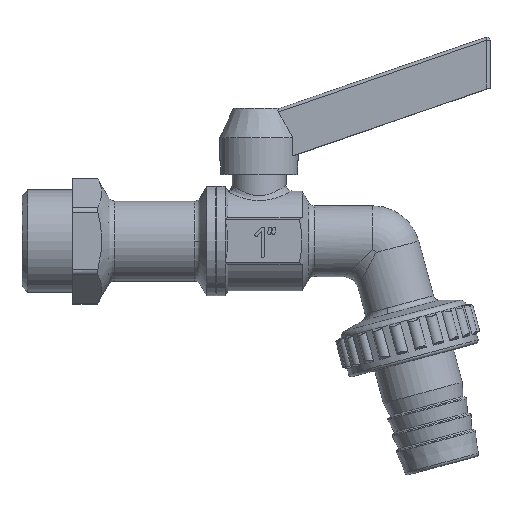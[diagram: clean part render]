
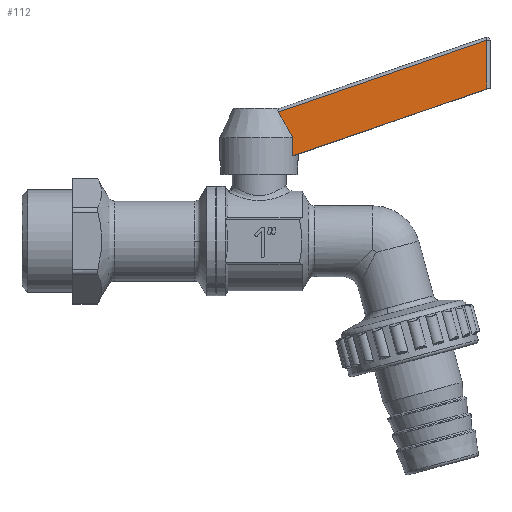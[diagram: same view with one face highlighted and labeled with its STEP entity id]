
A CAD part, top view. The second image highlights one B-rep face of the part: STEP entity #112.
In plain terms, the highlighted planar face has unit normal (0, 0, 1).
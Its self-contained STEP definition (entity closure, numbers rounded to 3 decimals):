
#112=ADVANCED_FACE('',(#1197),#1199,.T.);
#1197=FACE_BOUND('',#1198,.T.);
#1198=EDGE_LOOP('',(#5381,#5382,#5383,#5384,#5385));
#1199=PLANE('',#1200);
#1200=AXIS2_PLACEMENT_3D('',#1201,#1202,#1203);
#1201=CARTESIAN_POINT('',(0.,33.634,6.5));
#1202=DIRECTION('',(0.,0.,1.));
#1203=DIRECTION('',(1.,0.,0.));
#5381=ORIENTED_EDGE('',*,*,#8274,.T.);
#5382=ORIENTED_EDGE('',*,*,#8275,.T.);
#5383=ORIENTED_EDGE('',*,*,#8232,.F.);
#5384=ORIENTED_EDGE('',*,*,#8209,.F.);
#5385=ORIENTED_EDGE('',*,*,#8246,.T.);
#8209=EDGE_CURVE('',#9653,#9655,#9656,.T.);
#8232=EDGE_CURVE('',#9655,#9693,#9694,.F.);
#8246=EDGE_CURVE('',#9653,#9717,#9719,.T.);
#8274=EDGE_CURVE('',#9717,#9770,#9771,.T.);
#8275=EDGE_CURVE('',#9770,#9693,#9772,.T.);
#9653=VERTEX_POINT('',#12222);
#9655=VERTEX_POINT('',#12227);
#9656=LINE('',#12228,#12229);
#9693=VERTEX_POINT('',#12472);
#9694=B_SPLINE_CURVE_WITH_KNOTS('',3,
(#12473,#12474,#12475,#12476,#12477,#12478,#12479,#12480,#12481,#12482,#12483,#12484,
#12485,#12486,#12487,#12488,#12489,#12490,#12491,#12492,#12493,#12494,#12495,#12496,
#12497,#12498,#12499,#12500,#12501),
.UNSPECIFIED.,.F.,.F.,
(4,1,1,1,1,1,1,1,1,1,1,1,1,1,1,1,1,1,1,1,1,1,1,1,1,1,4),
(0.,0.019,0.038,0.058,0.071,0.078,
0.097,0.129,0.181,0.23,0.262,
0.359,0.435,0.445,0.512,0.571,
0.628,0.68,0.683,0.726,0.769,
0.814,0.86,0.904,0.906,0.953,
1.),
.UNSPECIFIED.);
#9717=VERTEX_POINT('',#12589);
#9719=LINE('',#12594,#12595);
#9770=VERTEX_POINT('',#12718);
#9771=LINE('',#12719,#12720);
#9772=LINE('',#12722,#12723);
#12222=CARTESIAN_POINT('',(10.969,27.664,6.5));
#12227=CARTESIAN_POINT('',(10.969,33.634,6.5));
#12228=CARTESIAN_POINT('',(10.969,27.664,6.5));
#12229=VECTOR('',#12230,1.);
#12230=DIRECTION('',(0.,1.,0.));
#12472=CARTESIAN_POINT('',(6.289,41.917,6.5));
#12473=CARTESIAN_POINT('',(6.289,41.917,6.5));
#12474=CARTESIAN_POINT('',(6.322,41.866,6.5));
#12475=CARTESIAN_POINT('',(6.388,41.763,6.5));
#12476=CARTESIAN_POINT('',(6.486,41.609,6.5));
#12477=CARTESIAN_POINT('',(6.573,41.47,6.5));
#12478=CARTESIAN_POINT('',(6.639,41.365,6.5));
#12479=CARTESIAN_POINT('',(6.706,41.259,6.5));
#12480=CARTESIAN_POINT('',(6.804,41.1,6.5));
#12481=CARTESIAN_POINT('',(6.977,40.82,6.5));
#12482=CARTESIAN_POINT('',(7.195,40.462,6.5));
#12483=CARTESIAN_POINT('',(7.41,40.101,6.5));
#12484=CARTESIAN_POINT('',(7.697,39.616,6.5));
#12485=CARTESIAN_POINT('',(8.024,39.054,6.5));
#12486=CARTESIAN_POINT('',(8.312,38.548,6.5));
#12487=CARTESIAN_POINT('',(8.551,38.126,6.5));
#12488=CARTESIAN_POINT('',(8.761,37.75,6.5));
#12489=CARTESIAN_POINT('',(9.041,37.244,6.5));
#12490=CARTESIAN_POINT('',(9.298,36.776,6.5));
#12491=CARTESIAN_POINT('',(9.468,36.463,6.5));
#12492=CARTESIAN_POINT('',(9.616,36.189,6.5));
#12493=CARTESIAN_POINT('',(9.751,35.939,6.5));
#12494=CARTESIAN_POINT('',(9.948,35.571,6.5));
#12495=CARTESIAN_POINT('',(10.148,35.196,6.5));
#12496=CARTESIAN_POINT('',(10.348,34.818,6.5));
#12497=CARTESIAN_POINT('',(10.484,34.561,6.5));
#12498=CARTESIAN_POINT('',(10.621,34.3,6.5));
#12499=CARTESIAN_POINT('',(10.762,34.03,6.5));
#12500=CARTESIAN_POINT('',(10.9,33.767,6.5));
#12501=CARTESIAN_POINT('',(10.969,33.634,6.5));
#12589=CARTESIAN_POINT('',(74.,49.368,6.5));
#12594=CARTESIAN_POINT('',(10.969,27.664,6.5));
#12595=VECTOR('',#12596,1.);
#12596=DIRECTION('',(0.946,0.326,0.));
#12718=CARTESIAN_POINT('',(74.,65.232,6.5));
#12719=CARTESIAN_POINT('',(74.,49.368,6.5));
#12720=VECTOR('',#12721,1.);
#12721=DIRECTION('',(0.,1.,0.));
#12722=CARTESIAN_POINT('',(74.,65.232,6.5));
#12723=VECTOR('',#12724,1.);
#12724=DIRECTION('',(-0.946,-0.326,0.));
